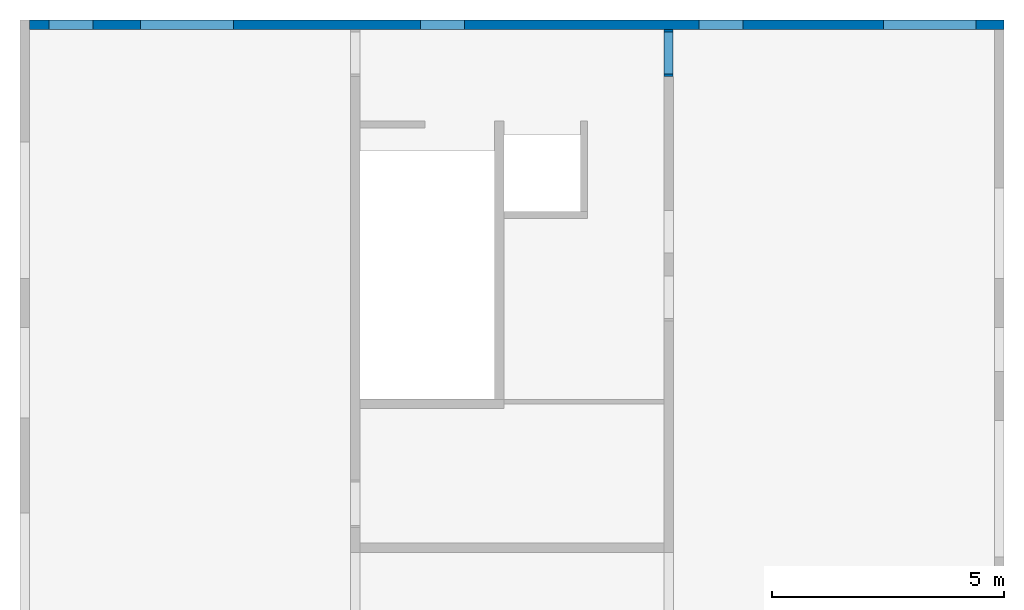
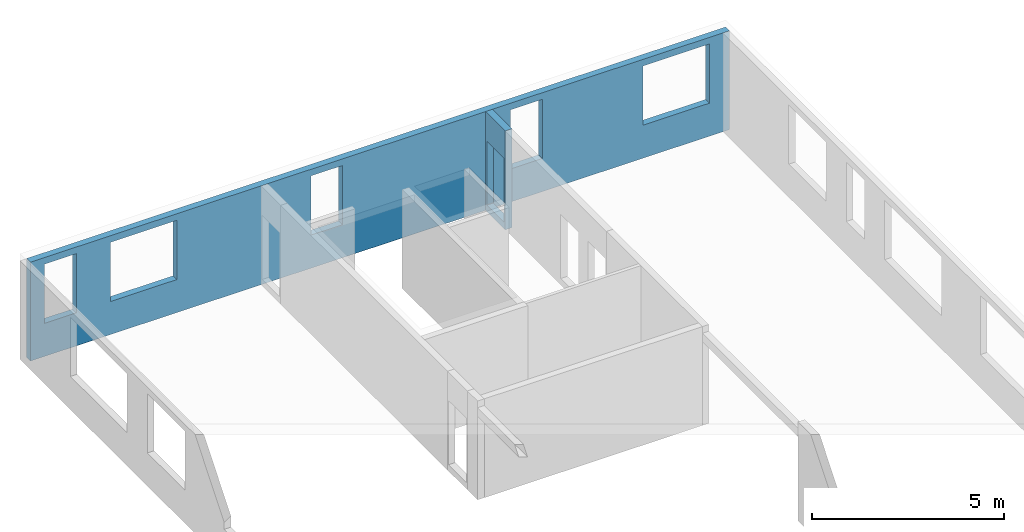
# One storey, part 2 of 2: 2 walls, 6 openings.
"""IFC2X3 building model written with IfcOpenShell, lengths in millimetres."""

from ifc_helpers import new_model, entity, si_unit, converted_unit, frame, frame_2d, origin, origin_with_axes, place, context, subcontext, project, spatial, polyline, rectangle, outline, extrude, material, layer, layer_set, layer_usage, element, save


model = new_model("IFC2X3")

# Units and contexts
model_context = context("Model", 3, precision=1e-05, world=origin())
body_context = subcontext(model_context, "Body", "Model", "MODEL_VIEW")
ifc_project = project(units=[si_unit("LENGTHUNIT", "METRE", prefix="MILLI"), converted_unit("PLANEANGLEUNIT", "DEGREE", entity("IfcPlaneAngleMeasure", 0.0174532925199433), si_unit("PLANEANGLEUNIT", "RADIAN"), dimensions=[0, 0, 0, 0, 0, 0, 0]), si_unit("AREAUNIT", "SQUARE_METRE"), si_unit("VOLUMEUNIT", "CUBIC_METRE")], contexts=[model_context])

# Building, storey
building_placement = place(None, origin())
building = spatial("IfcBuilding", under=ifc_project, at=building_placement, Name="Bâtiment", CompositionType="ELEMENT")
storey_placement = place(building_placement, frame((0.0, 0.0, 11610.0), z_axis=(0.0, 0.0, 1.0), x_axis=(1.0, 0.0, 0.0)))
storey = spatial("IfcBuildingStorey", under=building, at=storey_placement, Name="3. Etage supérieur", CompositionType="ELEMENT", Elevation=11610.0)

# Wall, openings
ifc_material_1 = material(Name="<Unnamed Material>")
ifc_layer_1 = layer(ifc_material_1, 200.0)
ifc_layer_set_1 = layer_set([ifc_layer_1])
ifc_layer_usage_1 = layer_usage(ifc_layer_set_1, "AXIS2", "POSITIVE", -100.0)
wall_1_placement = place(storey_placement, frame((-2042.186712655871, -10913.57313399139, -200.0), z_axis=(0.0, 0.0, 1.0), x_axis=(1.0, 1.732388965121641e-16, 0.0)))
wall_1 = element("IfcWallStandardCase", 1, at=wall_1_placement, inside=storey, material=ifc_layer_usage_1, Name="<Unnamed Element>", context=body_context, shape_type="SweptSolid", body=[
    extrude(outline(polyline([(7125.332321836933, 5.846046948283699e-13), (20999.78053621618, 0.0), (20999.78053621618, 200.0), (3.464777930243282e-14, 200.0), (0.0, 0.0), (6925.332321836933, 6.192524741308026e-13), (6925.332321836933, 0.522670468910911), (7125.332321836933, 0.5226704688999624), (7125.332321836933, 5.846046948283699e-13)])), origin_with_axes(), (0.0, 0.0, 1.0), 3139.999999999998),
])
opening_1_placement = place(wall_1_placement, frame((14425.19722807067, 1.818989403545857e-12, 1050.0), z_axis=(0.0, 1.0, 0.0), x_axis=(0.0, 0.0, 1.0)))
element("IfcOpeningElement", 2, at=opening_1_placement, cuts=wall_1, Name="Baie de fenêtre", ObjectType="Opening", context=body_context, shape_type="SweptSolid", body=[
    extrude(rectangle(XDim=1880.0, YDim=950.0, at=frame_2d((940.0, 475.0), x_axis=(1.0, 0.0))), origin_with_axes(), (0.0, 0.0, 1.0), 200.0),
])
opening_2_placement = place(wall_1_placement, frame((8424.341443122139, 1.818989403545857e-12, 1050.0), z_axis=(0.0, 1.0, 0.0), x_axis=(0.0, 0.0, 1.0)))
element("IfcOpeningElement", 3, at=opening_2_placement, cuts=wall_1, Name="Baie de fenêtre", ObjectType="Opening", context=body_context, shape_type="SweptSolid", body=[
    extrude(rectangle(XDim=1880.0, YDim=950.0, at=frame_2d((940.0, 475.0), x_axis=(1.0, 0.0))), origin_with_axes(), (0.0, 0.0, 1.0), 200.0),
])
opening_3_placement = place(wall_1_placement, frame((425.3435372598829, 0.0, 1050.0), z_axis=(0.0, 1.0, 0.0), x_axis=(0.0, 0.0, 1.0)))
element("IfcOpeningElement", 4, at=opening_3_placement, cuts=wall_1, Name="Baie de fenêtre", ObjectType="Opening", context=body_context, shape_type="SweptSolid", body=[
    extrude(rectangle(XDim=1880.0, YDim=950.0, at=frame_2d((940.0, 475.0), x_axis=(1.0, 0.0))), origin_with_axes(), (0.0, 0.0, 1.0), 200.0),
])
opening_4_placement = place(wall_1_placement, frame((18400.24500598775, 3.637978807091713e-12, 1050.0), z_axis=(0.0, 1.0, 0.0), x_axis=(0.0, 0.0, 1.0)))
element("IfcOpeningElement", 5, at=opening_4_placement, cuts=wall_1, Name="Baie de fenêtre", ObjectType="Opening", context=body_context, shape_type="SweptSolid", body=[
    extrude(rectangle(XDim=1880.0, YDim=2000.0, at=frame_2d((940.0, 1000.0), x_axis=(1.0, 0.0))), origin_with_axes(), (0.0, 0.0, 1.0), 200.0),
])
opening_5_placement = place(wall_1_placement, frame((2400.104618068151, 0.0, 1050.0), z_axis=(0.0, 1.0, 0.0), x_axis=(0.0, 0.0, 1.0)))
element("IfcOpeningElement", 6, at=opening_5_placement, cuts=wall_1, Name="Baie de fenêtre", ObjectType="Opening", context=body_context, shape_type="SweptSolid", body=[
    extrude(rectangle(XDim=1880.0, YDim=2000.0, at=frame_2d((940.0, 1000.0), x_axis=(1.0, 0.0))), origin_with_axes(), (0.0, 0.0, 1.0), 200.0),
])

# Wall, opening
ifc_material_2 = material(Name="<Unnamed Material>")
ifc_layer_2 = layer(ifc_material_2, 200.0)
ifc_layer_set_2 = layer_set([ifc_layer_2])
ifc_layer_usage_2 = layer_usage(ifc_layer_set_2, "AXIS2", "POSITIVE", -200.0)
wall_2_placement = place(storey_placement, frame((11831.19887067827, -11933.31105644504, -200.0), z_axis=(0.0, 0.0, 1.0), x_axis=(0.0, 1.0, 0.0)))
wall_2 = element("IfcWallStandardCase", 7, at=wall_2_placement, inside=storey, material=ifc_layer_usage_2, Name="<Unnamed Element>", context=body_context, shape_type="SweptSolid", body=[
    extrude(rectangle(XDim=1019.737922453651, YDim=200.0, at=frame_2d((509.8689612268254, 100.0), x_axis=(1.0, 0.0))), origin_with_axes(), (0.0, 0.0, 1.0), 3139.999999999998),
])
opening_6_placement = place(wall_2_placement, frame((60.10082773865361, 0.0, 200.0), z_axis=(0.0, 1.0, 0.0), x_axis=(0.0, 0.0, 1.0)))
element("IfcOpeningElement", 8, at=opening_6_placement, cuts=wall_2, Name="Porte-fenêtre", ObjectType="Opening", context=body_context, shape_type="SweptSolid", body=[
    extrude(rectangle(XDim=2040.0, YDim=900.0, at=frame_2d((1020.0, 450.0), x_axis=(1.0, 0.0))), origin_with_axes(), (0.0, 0.0, 1.0), 200.0),
])

save(model, "model.ifc")
